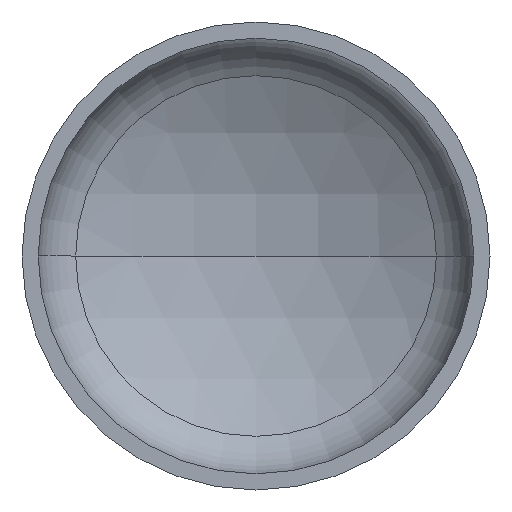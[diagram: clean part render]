
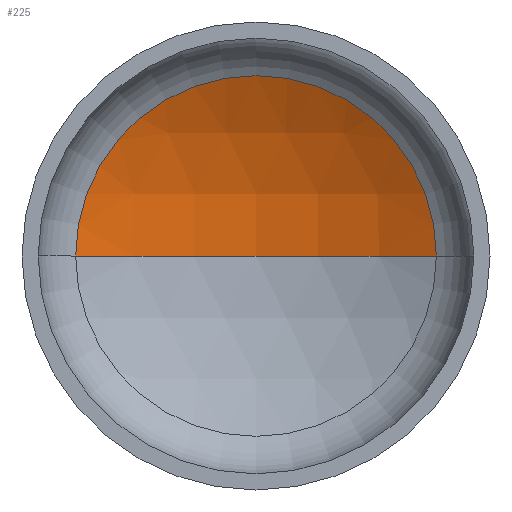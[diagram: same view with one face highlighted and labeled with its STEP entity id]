
A CAD part, front view. The second image highlights one B-rep face of the part: STEP entity #225.
In plain terms, the highlighted spherical face has radius 880 mm.
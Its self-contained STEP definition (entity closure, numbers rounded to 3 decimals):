
#6 = CARTESIAN_POINT ( 'NONE',  ( 0., 377.797, 0. ) ) ;
#10 = AXIS2_PLACEMENT_3D ( 'NONE', #319, #153, #352 ) ;
#13 = AXIS2_PLACEMENT_3D ( 'NONE', #136, #71, #95 ) ;
#24 = AXIS2_PLACEMENT_3D ( 'NONE', #249, #388, #391 ) ;
#71 = DIRECTION ( 'NONE',  ( 0., -1., 0. ) ) ;
#75 = ORIENTED_EDGE ( 'NONE', *, *, #329, .T. ) ;
#85 = ORIENTED_EDGE ( 'NONE', *, *, #338, .T. ) ;
#89 = VERTEX_POINT ( 'NONE', #348 ) ;
#95 = DIRECTION ( 'NONE',  ( 1., 0., 0. ) ) ;
#107 = CIRCLE ( 'NONE', #10, 880. ) ;
#136 = CARTESIAN_POINT ( 'NONE',  ( 0., 268.978, 0. ) ) ;
#150 = ORIENTED_EDGE ( 'NONE', *, *, #380, .F. ) ;
#153 = DIRECTION ( 'NONE',  ( 0., 0., -1. ) ) ;
#160 = VERTEX_POINT ( 'NONE', #6 ) ;
#161 = DIRECTION ( 'NONE',  ( 0., 0., 1. ) ) ;
#170 = EDGE_LOOP ( 'NONE', ( #150, #85, #75 ) ) ;
#195 = CARTESIAN_POINT ( 'NONE',  ( 423.887, 268.978, 0. ) ) ;
#225 = ADVANCED_FACE ( 'NONE', ( #354 ), #229, .F. ) ;
#229 = SPHERICAL_SURFACE ( 'NONE', #24, 880. ) ;
#249 = CARTESIAN_POINT ( 'NONE',  ( 0., -502.203, 0. ) ) ;
#252 = CIRCLE ( 'NONE', #324, 880. ) ;
#319 = CARTESIAN_POINT ( 'NONE',  ( 0., -502.203, 0. ) ) ;
#324 = AXIS2_PLACEMENT_3D ( 'NONE', #327, #161, #355 ) ;
#327 = CARTESIAN_POINT ( 'NONE',  ( 0., -502.203, 0. ) ) ;
#329 = EDGE_CURVE ( 'NONE', #397, #89, #331, .T. ) ;
#331 = CIRCLE ( 'NONE', #13, 423.887 ) ;
#338 = EDGE_CURVE ( 'NONE', #160, #397, #107, .T. ) ;
#348 = CARTESIAN_POINT ( 'NONE',  ( -423.887, 268.978, 0. ) ) ;
#352 = DIRECTION ( 'NONE',  ( -1., 0., 0. ) ) ;
#354 = FACE_OUTER_BOUND ( 'NONE', #170, .T. ) ;
#355 = DIRECTION ( 'NONE',  ( 1., 0., 0. ) ) ;
#380 = EDGE_CURVE ( 'NONE', #160, #89, #252, .T. ) ;
#388 = DIRECTION ( 'NONE',  ( 0., 0., -1. ) ) ;
#391 = DIRECTION ( 'NONE',  ( -1., 0., 0. ) ) ;
#397 = VERTEX_POINT ( 'NONE', #195 ) ;
